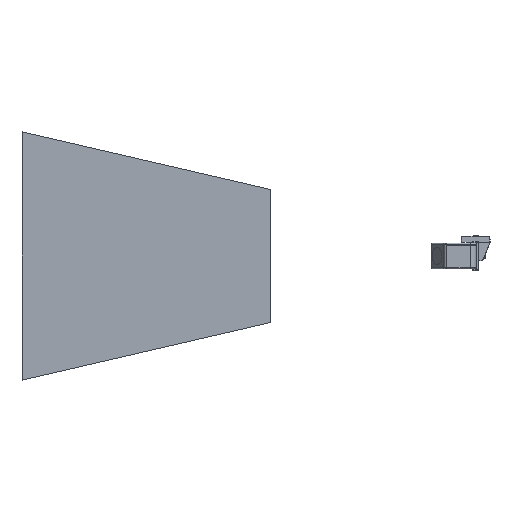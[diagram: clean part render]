
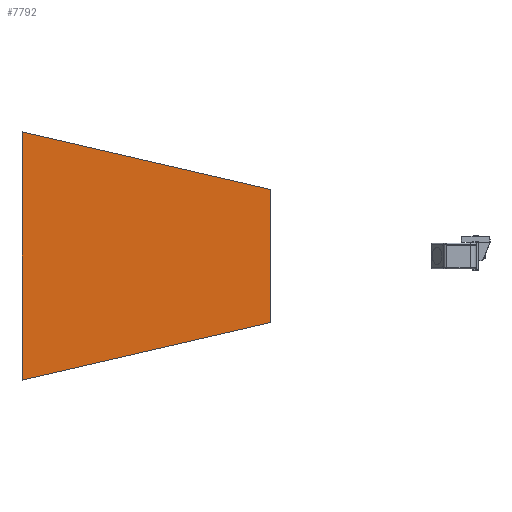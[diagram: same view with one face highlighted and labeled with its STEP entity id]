
A CAD part, front view. The second image highlights one B-rep face of the part: STEP entity #7792.
In plain terms, the highlighted planar face has unit normal (0, -1, 0) as drawn and (0, 0, -1) by its records, which use the part's own axes.
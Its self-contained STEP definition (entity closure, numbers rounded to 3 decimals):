
#116 = CARTESIAN_POINT ( 'NONE',  ( -134., -161.647, 0. ) ) ;
#142 = LINE ( 'NONE', #35785, #36564 ) ;
#1354 = VERTEX_POINT ( 'NONE', #116 ) ;
#7792 = ADVANCED_FACE ( 'NONE', ( #29318 ), #30854, .T. ) ;
#8148 = VECTOR ( 'NONE', #45534, 1000. ) ;
#8167 = CARTESIAN_POINT ( 'NONE',  ( 250., 338.353, 0. ) ) ;
#10061 = VECTOR ( 'NONE', #36507, 1000. ) ;
#16150 = LINE ( 'NONE', #19166, #10061 ) ;
#17351 = CARTESIAN_POINT ( 'NONE',  ( 0., 0., 0. ) ) ;
#18808 = DIRECTION ( 'NONE',  ( 1., 0., 0. ) ) ;
#19166 = CARTESIAN_POINT ( 'NONE',  ( -250., 338.353, 0. ) ) ;
#24411 = ORIENTED_EDGE ( 'NONE', *, *, #52346, .F. ) ;
#29318 = FACE_OUTER_BOUND ( 'NONE', #29640, .T. ) ;
#29640 = EDGE_LOOP ( 'NONE', ( #50849, #31213, #24411, #45509 ) ) ;
#29665 = EDGE_CURVE ( 'NONE', #31164, #55363, #16150, .T. ) ;
#30854 = PLANE ( 'NONE',  #39299 ) ;
#31028 = CARTESIAN_POINT ( 'NONE',  ( 250., 338.353, 0. ) ) ;
#31093 = LINE ( 'NONE', #32313, #8148 ) ;
#31134 = VECTOR ( 'NONE', #43339, 1000. ) ;
#31164 = VERTEX_POINT ( 'NONE', #8167 ) ;
#31213 = ORIENTED_EDGE ( 'NONE', *, *, #29665, .F. ) ;
#32313 = CARTESIAN_POINT ( 'NONE',  ( -134., -161.647, 0. ) ) ;
#33063 = CARTESIAN_POINT ( 'NONE',  ( 134., -161.647, 0. ) ) ;
#33387 = EDGE_CURVE ( 'NONE', #55363, #1354, #31093, .T. ) ;
#34252 = VERTEX_POINT ( 'NONE', #33063 ) ;
#35000 = DIRECTION ( 'NONE',  ( 0., 0., -1. ) ) ;
#35785 = CARTESIAN_POINT ( 'NONE',  ( 134., -161.647, 0. ) ) ;
#36507 = DIRECTION ( 'NONE',  ( -1., 0., 0. ) ) ;
#36564 = VECTOR ( 'NONE', #18808, 1000. ) ;
#39299 = AXIS2_PLACEMENT_3D ( 'NONE', #17351, #35000, #52608 ) ;
#43339 = DIRECTION ( 'NONE',  ( 0.226, 0.974, 0. ) ) ;
#45319 = LINE ( 'NONE', #31028, #31134 ) ;
#45509 = ORIENTED_EDGE ( 'NONE', *, *, #54617, .F. ) ;
#45534 = DIRECTION ( 'NONE',  ( 0.226, -0.974, 0. ) ) ;
#49666 = CARTESIAN_POINT ( 'NONE',  ( -250., 338.353, 0. ) ) ;
#50849 = ORIENTED_EDGE ( 'NONE', *, *, #33387, .F. ) ;
#52346 = EDGE_CURVE ( 'NONE', #34252, #31164, #45319, .T. ) ;
#52608 = DIRECTION ( 'NONE',  ( -1., 0., 0. ) ) ;
#54617 = EDGE_CURVE ( 'NONE', #1354, #34252, #142, .T. ) ;
#55363 = VERTEX_POINT ( 'NONE', #49666 ) ;
